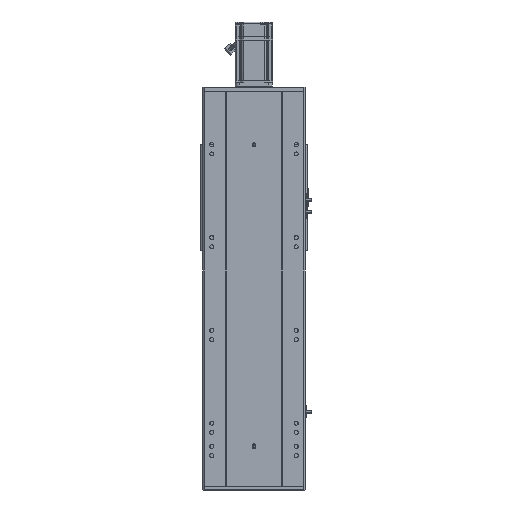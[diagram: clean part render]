
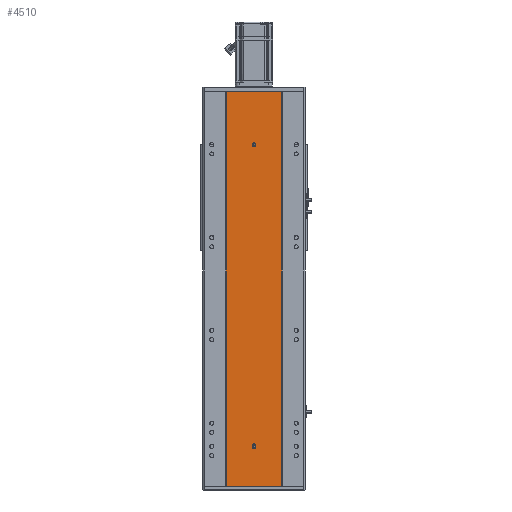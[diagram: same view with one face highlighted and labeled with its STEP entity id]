
A CAD part, front view. The second image highlights one B-rep face of the part: STEP entity #4510.
In plain terms, the highlighted planar face has unit normal (0, -1, 0).
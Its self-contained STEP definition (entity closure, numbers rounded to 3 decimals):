
#43 = DIRECTION ( 'NONE',  ( 0., 0., -1. ) ) ;
#292 = CARTESIAN_POINT ( 'NONE',  ( 0., 0., 84.5 ) ) ;
#1085 = VERTEX_POINT ( 'NONE', #3982 ) ;
#1267 = CARTESIAN_POINT ( 'NONE',  ( -60., 0., 850. ) ) ;
#1315 = CARTESIAN_POINT ( 'NONE',  ( -4., 0., 87.5 ) ) ;
#1606 = DIRECTION ( 'NONE',  ( 1., 0., 0. ) ) ;
#1842 = CARTESIAN_POINT ( 'NONE',  ( -60., 0., 850. ) ) ;
#3389 = VECTOR ( 'NONE', #1606, 1000. ) ;
#3502 = ORIENTED_EDGE ( 'NONE', *, *, #40007, .T. ) ;
#3640 = EDGE_CURVE ( 'NONE', #1085, #22712, #61611, .T. ) ;
#3706 = FACE_OUTER_BOUND ( 'NONE', #43599, .T. ) ;
#3982 = CARTESIAN_POINT ( 'NONE',  ( 0., 0., 732. ) ) ;
#4178 = VERTEX_POINT ( 'NONE', #1315 ) ;
#4500 = VERTEX_POINT ( 'NONE', #9064 ) ;
#4510 = ADVANCED_FACE ( 'NONE', ( #25545, #35651, #3706 ), #68110, .F. ) ;
#4782 = DIRECTION ( 'NONE',  ( 0., 0., -1. ) ) ;
#5860 = DIRECTION ( 'NONE',  ( 0., -1., 0. ) ) ;
#6177 = AXIS2_PLACEMENT_3D ( 'NONE', #44107, #5860, #59740 ) ;
#6187 = DIRECTION ( 'NONE',  ( 0., -1., 0. ) ) ;
#8901 = EDGE_CURVE ( 'NONE', #4500, #25113, #23368, .T. ) ;
#9064 = CARTESIAN_POINT ( 'NONE',  ( 0., 0., 80.5 ) ) ;
#10325 = CIRCLE ( 'NONE', #53490, 4. ) ;
#11100 = VERTEX_POINT ( 'NONE', #48400 ) ;
#11430 = ORIENTED_EDGE ( 'NONE', *, *, #14473, .F. ) ;
#12068 = CARTESIAN_POINT ( 'NONE',  ( 4., 0., 84.5 ) ) ;
#13319 = LINE ( 'NONE', #21025, #54322 ) ;
#14406 = EDGE_LOOP ( 'NONE', ( #32438, #52540 ) ) ;
#14473 = EDGE_CURVE ( 'NONE', #35733, #4178, #62897, .T. ) ;
#14542 = EDGE_CURVE ( 'NONE', #11100, #31074, #31083, .T. ) ;
#14958 = DIRECTION ( 'NONE',  ( 0., 0., -1. ) ) ;
#18483 = AXIS2_PLACEMENT_3D ( 'NONE', #292, #37861, #64787 ) ;
#20107 = VERTEX_POINT ( 'NONE', #51742 ) ;
#20399 = ORIENTED_EDGE ( 'NONE', *, *, #36834, .F. ) ;
#21025 = CARTESIAN_POINT ( 'NONE',  ( 60., 0., 850. ) ) ;
#21697 = CARTESIAN_POINT ( 'NONE',  ( 0., 0., 736. ) ) ;
#22435 = DIRECTION ( 'NONE',  ( 0., 1., 0. ) ) ;
#22712 = VERTEX_POINT ( 'NONE', #49398 ) ;
#23368 = CIRCLE ( 'NONE', #18483, 4. ) ;
#24429 = DIRECTION ( 'NONE',  ( 0., 0., -1. ) ) ;
#25113 = VERTEX_POINT ( 'NONE', #12068 ) ;
#25545 = FACE_BOUND ( 'NONE', #14406, .T. ) ;
#27614 = VERTEX_POINT ( 'NONE', #41550 ) ;
#27861 = DIRECTION ( 'NONE',  ( 0., 0., -1. ) ) ;
#28035 = EDGE_CURVE ( 'NONE', #11100, #20107, #54120, .T. ) ;
#29626 = DIRECTION ( 'NONE',  ( 0., 0., 1. ) ) ;
#29868 = CARTESIAN_POINT ( 'NONE',  ( 4., 0., 84.5 ) ) ;
#30654 = AXIS2_PLACEMENT_3D ( 'NONE', #42797, #6187, #43 ) ;
#30661 = VECTOR ( 'NONE', #51024, 1000. ) ;
#31074 = VERTEX_POINT ( 'NONE', #56442 ) ;
#31083 = LINE ( 'NONE', #1842, #3389 ) ;
#32438 = ORIENTED_EDGE ( 'NONE', *, *, #3640, .F. ) ;
#32862 = ORIENTED_EDGE ( 'NONE', *, *, #8901, .F. ) ;
#33585 = AXIS2_PLACEMENT_3D ( 'NONE', #1267, #22435, #38373 ) ;
#33675 = EDGE_CURVE ( 'NONE', #4178, #27614, #64378, .T. ) ;
#34748 = DIRECTION ( 'NONE',  ( 0., -1., 0. ) ) ;
#34920 = LINE ( 'NONE', #57445, #65044 ) ;
#35651 = FACE_BOUND ( 'NONE', #65420, .T. ) ;
#35733 = VERTEX_POINT ( 'NONE', #42110 ) ;
#36241 = CIRCLE ( 'NONE', #30654, 4. ) ;
#36834 = EDGE_CURVE ( 'NONE', #25113, #35733, #68449, .T. ) ;
#37861 = DIRECTION ( 'NONE',  ( 0., -1., 0. ) ) ;
#38373 = DIRECTION ( 'NONE',  ( 0., 0., 1. ) ) ;
#40007 = EDGE_CURVE ( 'NONE', #20107, #64665, #34920, .T. ) ;
#40468 = ORIENTED_EDGE ( 'NONE', *, *, #33675, .F. ) ;
#41550 = CARTESIAN_POINT ( 'NONE',  ( -4., 0., 84.5 ) ) ;
#42110 = CARTESIAN_POINT ( 'NONE',  ( 4., 0., 87.5 ) ) ;
#42797 = CARTESIAN_POINT ( 'NONE',  ( 0., 0., 84.5 ) ) ;
#43599 = EDGE_LOOP ( 'NONE', ( #3502, #44377, #67388, #62261 ) ) ;
#44107 = CARTESIAN_POINT ( 'NONE',  ( 0., 0., 87.5 ) ) ;
#44377 = ORIENTED_EDGE ( 'NONE', *, *, #46077, .F. ) ;
#45688 = AXIS2_PLACEMENT_3D ( 'NONE', #61176, #34748, #24429 ) ;
#46077 = EDGE_CURVE ( 'NONE', #31074, #64665, #13319, .T. ) ;
#46281 = EDGE_CURVE ( 'NONE', #27614, #4500, #36241, .T. ) ;
#48400 = CARTESIAN_POINT ( 'NONE',  ( -60., 0., 850. ) ) ;
#49243 = VECTOR ( 'NONE', #27861, 1000. ) ;
#49398 = CARTESIAN_POINT ( 'NONE',  ( 0., 0., 740. ) ) ;
#50807 = VECTOR ( 'NONE', #29626, 1000. ) ;
#51024 = DIRECTION ( 'NONE',  ( 0., 0., -1. ) ) ;
#51742 = CARTESIAN_POINT ( 'NONE',  ( -60., 0., 0. ) ) ;
#52540 = ORIENTED_EDGE ( 'NONE', *, *, #56385, .F. ) ;
#53490 = AXIS2_PLACEMENT_3D ( 'NONE', #21697, #58446, #4782 ) ;
#53597 = CARTESIAN_POINT ( 'NONE',  ( -4., 0., 84.5 ) ) ;
#54120 = LINE ( 'NONE', #61338, #30661 ) ;
#54322 = VECTOR ( 'NONE', #14958, 1000. ) ;
#55322 = ORIENTED_EDGE ( 'NONE', *, *, #46281, .F. ) ;
#56385 = EDGE_CURVE ( 'NONE', #22712, #1085, #10325, .T. ) ;
#56442 = CARTESIAN_POINT ( 'NONE',  ( 60., 0., 850. ) ) ;
#57445 = CARTESIAN_POINT ( 'NONE',  ( -60., 0., 0. ) ) ;
#58446 = DIRECTION ( 'NONE',  ( 0., -1., 0. ) ) ;
#59740 = DIRECTION ( 'NONE',  ( 0., 0., -1. ) ) ;
#61176 = CARTESIAN_POINT ( 'NONE',  ( 0., 0., 736. ) ) ;
#61338 = CARTESIAN_POINT ( 'NONE',  ( -60., 0., 850. ) ) ;
#61611 = CIRCLE ( 'NONE', #45688, 4. ) ;
#62261 = ORIENTED_EDGE ( 'NONE', *, *, #28035, .T. ) ;
#62897 = CIRCLE ( 'NONE', #6177, 4. ) ;
#63025 = CARTESIAN_POINT ( 'NONE',  ( 60., 0., 0. ) ) ;
#63306 = DIRECTION ( 'NONE',  ( 1., 0., 0. ) ) ;
#64378 = LINE ( 'NONE', #53597, #49243 ) ;
#64665 = VERTEX_POINT ( 'NONE', #63025 ) ;
#64787 = DIRECTION ( 'NONE',  ( 0., 0., -1. ) ) ;
#65044 = VECTOR ( 'NONE', #63306, 1000. ) ;
#65420 = EDGE_LOOP ( 'NONE', ( #20399, #32862, #55322, #40468, #11430 ) ) ;
#67388 = ORIENTED_EDGE ( 'NONE', *, *, #14542, .F. ) ;
#68110 = PLANE ( 'NONE',  #33585 ) ;
#68449 = LINE ( 'NONE', #29868, #50807 ) ;
